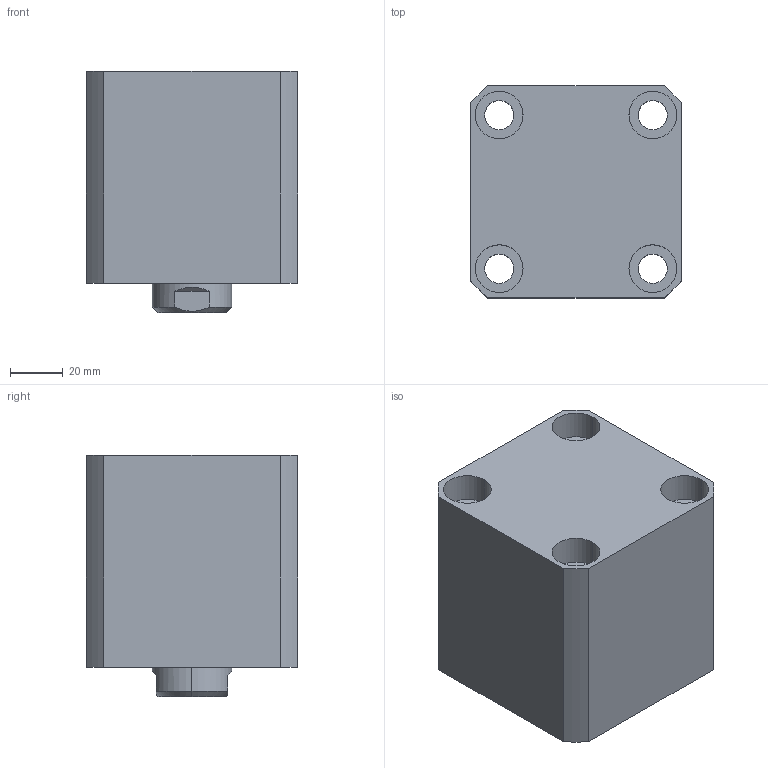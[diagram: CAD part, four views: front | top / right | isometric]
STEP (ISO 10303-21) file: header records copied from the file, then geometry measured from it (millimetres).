
FILE_DESCRIPTION (( 'STEP AP203' ), '1' );
FILE_NAME ('CHTB-SD50-20N.STEP', '2018-05-18T11:50:39', ( '' ), ( '' ), 'SwSTEP 2.0', 'SolidWorks 2015', '' );
FILE_SCHEMA (( 'CONFIG_CONTROL_DESIGN' ));
Length unit declared in the file: millimetre
Products named in the file (4): CHTM-SD50QG; 活塞杆SD50-20N; CHTB-SD50-20N; 掛极SD50-20N
Assembly tree (3 placements, depth 2):
  CHTB-SD50-20N
    掛极SD50-20N
    活塞杆SD50-20N
    CHTM-SD50QG
Bounding box: 80 x 80 x 91 mm (x, y, z)
Volume: 428810.9 mm3; surface area: 92294.7 mm2
Topology: 3 solids, 3 shells, 194 faces, 499 edges, 330 vertices
Faces by surface type: cylinder 104, plane 39, cone 21, torus 16, bspline 14
Entity records: 10789 total; most frequent: CARTESIAN_POINT 5840, ORIENTED_EDGE 986, DIRECTION 914, EDGE_CURVE 493, AXIS2_PLACEMENT_3D 383, VERTEX_POINT 330, EDGE_LOOP 233, CIRCLE 197
